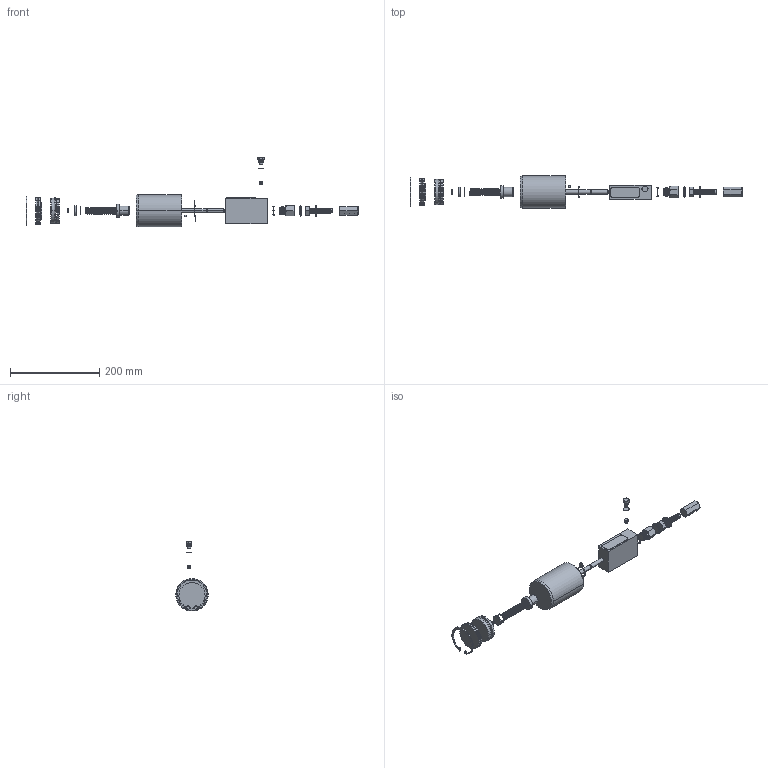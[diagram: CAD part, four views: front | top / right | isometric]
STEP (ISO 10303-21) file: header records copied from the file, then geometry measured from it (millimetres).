
FILE_DESCRIPTION((''),'2;1');
FILE_NAME('563306-EN-K_PRT','2022-02-14T14:32:19',('qtmwp1'),(''),'CREO PARAMETRIC BY PTC INC, 2021072','CREO PARAMETRIC BY PTC INC, 2021072','');
FILE_SCHEMA(('CONFIG_CONTROL_DESIGN'));
Length unit declared in the file: inch
Products named in the file (1): 563306-EN-K_PRT
Bounding box: 743.48 x 72.58 x 156.7 mm (x, y, z)
Surface area: 106946.6 mm2 (no closed solid volume)
Topology: 0 solids, 47 shells, 395 faces, 1037 edges, 679 vertices
Faces by surface type: cylinder 154, plane 86, bspline 53, cone 51, torus 51
Entity records: 35435 total; most frequent: CARTESIAN_POINT 26431, ORIENTED_EDGE 1847, DIRECTION 1716, EDGE_CURVE 1037, AXIS2_PLACEMENT_3D 685, VERTEX_POINT 679, EDGE_LOOP 395, FACE_OUTER_BOUND 395
